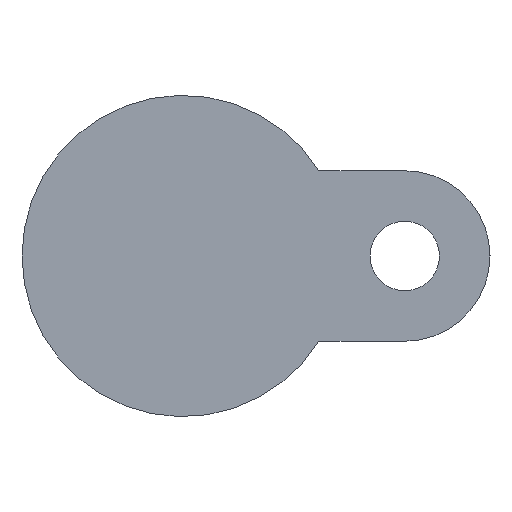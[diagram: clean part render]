
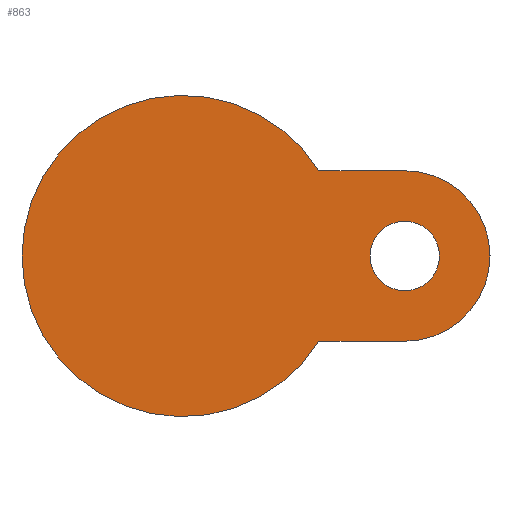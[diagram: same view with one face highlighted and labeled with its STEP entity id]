
A CAD part, front view. The second image highlights one B-rep face of the part: STEP entity #863.
In plain terms, the highlighted planar face has unit normal (0, -1, 0).
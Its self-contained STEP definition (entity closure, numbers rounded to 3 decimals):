
#49 = CIRCLE ( 'NONE', #75, 8.75 ) ;
#61 = VERTEX_POINT ( 'NONE', #245 ) ;
#75 = AXIS2_PLACEMENT_3D ( 'NONE', #588, #1389, #709 ) ;
#101 = CARTESIAN_POINT ( 'NONE',  ( 30.5, -23., -21.5 ) ) ;
#153 = DIRECTION ( 'NONE',  ( -1., 0., 0. ) ) ;
#176 = ORIENTED_EDGE ( 'NONE', *, *, #782, .F. ) ;
#187 = VERTEX_POINT ( 'NONE', #1250 ) ;
#201 = CARTESIAN_POINT ( 'NONE',  ( 47.25, -23., 0. ) ) ;
#204 = CARTESIAN_POINT ( 'NONE',  ( 56., -23., 21.5 ) ) ;
#225 = LINE ( 'NONE', #101, #383 ) ;
#245 = CARTESIAN_POINT ( 'NONE',  ( 34.322, -23., 21.5 ) ) ;
#279 = DIRECTION ( 'NONE',  ( 0., -1., 0. ) ) ;
#314 = DIRECTION ( 'NONE',  ( 1., 0., 0. ) ) ;
#323 = LINE ( 'NONE', #1123, #591 ) ;
#357 = EDGE_LOOP ( 'NONE', ( #594, #995, #392, #176 ) ) ;
#383 = VECTOR ( 'NONE', #801, 1000. ) ;
#386 = DIRECTION ( 'NONE',  ( 1., 0., 0. ) ) ;
#392 = ORIENTED_EDGE ( 'NONE', *, *, #1246, .F. ) ;
#403 = CARTESIAN_POINT ( 'NONE',  ( 0., -23., 0. ) ) ;
#514 = CIRCLE ( 'NONE', #699, 40.5 ) ;
#515 = AXIS2_PLACEMENT_3D ( 'NONE', #1188, #1073, #1387 ) ;
#516 = VERTEX_POINT ( 'NONE', #1397 ) ;
#528 = DIRECTION ( 'NONE',  ( 0., 1., 0. ) ) ;
#588 = CARTESIAN_POINT ( 'NONE',  ( 56., -23., 0. ) ) ;
#591 = VECTOR ( 'NONE', #314, 1000. ) ;
#594 = ORIENTED_EDGE ( 'NONE', *, *, #1140, .T. ) ;
#601 = CIRCLE ( 'NONE', #625, 8.75 ) ;
#625 = AXIS2_PLACEMENT_3D ( 'NONE', #1078, #872, #153 ) ;
#628 = EDGE_CURVE ( 'NONE', #1262, #516, #225, .T. ) ;
#699 = AXIS2_PLACEMENT_3D ( 'NONE', #403, #279, #1197 ) ;
#709 = DIRECTION ( 'NONE',  ( -1., 0., 0. ) ) ;
#782 = EDGE_CURVE ( 'NONE', #61, #1336, #323, .T. ) ;
#801 = DIRECTION ( 'NONE',  ( -1., 0., 0. ) ) ;
#863 = ADVANCED_FACE ( 'NONE', ( #1168, #1297 ), #1173, .T. ) ;
#872 = DIRECTION ( 'NONE',  ( 0., 1., 0. ) ) ;
#963 = CARTESIAN_POINT ( 'NONE',  ( 56., -23., 0. ) ) ;
#995 = ORIENTED_EDGE ( 'NONE', *, *, #628, .F. ) ;
#1073 = DIRECTION ( 'NONE',  ( 0., -1., 0. ) ) ;
#1078 = CARTESIAN_POINT ( 'NONE',  ( 56., -23., 0. ) ) ;
#1106 = EDGE_CURVE ( 'NONE', #1289, #187, #49, .T. ) ;
#1123 = CARTESIAN_POINT ( 'NONE',  ( 30.5, -23., 21.5 ) ) ;
#1140 = EDGE_CURVE ( 'NONE', #61, #516, #514, .T. ) ;
#1155 = CIRCLE ( 'NONE', #1211, 21.5 ) ;
#1160 = EDGE_CURVE ( 'NONE', #187, #1289, #601, .T. ) ;
#1168 = FACE_BOUND ( 'NONE', #1475, .T. ) ;
#1173 = PLANE ( 'NONE',  #515 ) ;
#1188 = CARTESIAN_POINT ( 'NONE',  ( 40.5, -23., 0. ) ) ;
#1197 = DIRECTION ( 'NONE',  ( 1., 0., 0. ) ) ;
#1211 = AXIS2_PLACEMENT_3D ( 'NONE', #963, #528, #386 ) ;
#1241 = ORIENTED_EDGE ( 'NONE', *, *, #1106, .T. ) ;
#1246 = EDGE_CURVE ( 'NONE', #1336, #1262, #1155, .T. ) ;
#1250 = CARTESIAN_POINT ( 'NONE',  ( 64.75, -23., 0. ) ) ;
#1262 = VERTEX_POINT ( 'NONE', #1338 ) ;
#1289 = VERTEX_POINT ( 'NONE', #201 ) ;
#1297 = FACE_OUTER_BOUND ( 'NONE', #357, .T. ) ;
#1336 = VERTEX_POINT ( 'NONE', #204 ) ;
#1338 = CARTESIAN_POINT ( 'NONE',  ( 56., -23., -21.5 ) ) ;
#1387 = DIRECTION ( 'NONE',  ( 1., 0., 0. ) ) ;
#1389 = DIRECTION ( 'NONE',  ( 0., 1., 0. ) ) ;
#1397 = CARTESIAN_POINT ( 'NONE',  ( 34.322, -23., -21.5 ) ) ;
#1461 = ORIENTED_EDGE ( 'NONE', *, *, #1160, .T. ) ;
#1475 = EDGE_LOOP ( 'NONE', ( #1241, #1461 ) ) ;
